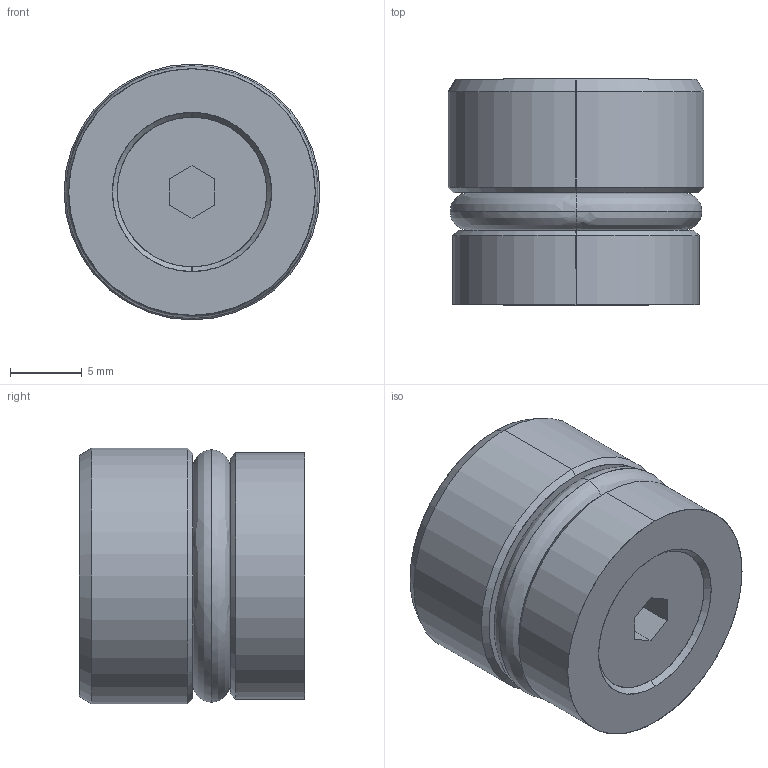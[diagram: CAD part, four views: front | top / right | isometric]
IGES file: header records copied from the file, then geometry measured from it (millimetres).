
Start section: SolidWorks IGES file using analytic representation for surfaces
Global section: file name: C:\Users\365admin\AppData\Local\Temp\InFlowXlateWorking\TDP50-OS.igs; native system: SolidWorks 2018; preprocessor: SolidWorks 2018; author: 365admin; date: 210222.150759; units: inch
Bounding box: 17.86 x 15.75 x 17.86 mm (x, y, z)
Surface area: 2384.1 mm2 (no closed solid volume)
Topology: 0 solids, 0 shells, 42 faces, 500 edges, 498 vertices
Faces by surface type: revolution 24, bspline 18
